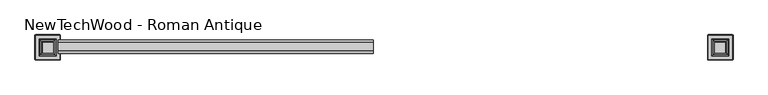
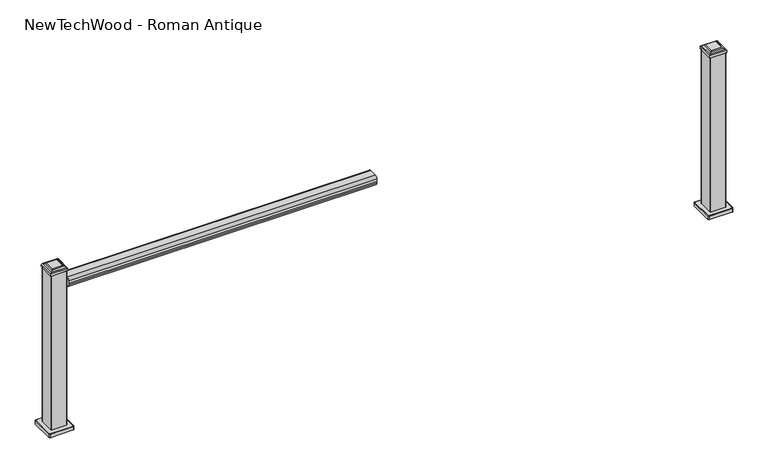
"""IFC4 building model written with IfcOpenShell, lengths in millimetres: railing geometry, NewTechWood - Roman Antique."""

import ifcopenshell
import ifcopenshell.guid

model = None  # the IFC model being written
_history = None  # IfcOwnerHistory: only IFC2X3 demands one
_inside = {}  # id of a spatial element -> (the spatial element, [elements in it])
_under = {}  # id of a project, library or spatial element -> (it, [spatial elements below it])
_declared = {}  # id of a project -> (the project, [libraries it declares])
_typed = {}  # id of a type object -> (the type object, [elements of that type])
_made_of = {}  # id of a material, layer set ... -> (it, [elements and type objects made of it])


def new_model(schema):
    """Start an empty IFC model of exactly this schema.

    Asked for "IFC4X3", IfcOpenShell would pick the latest addendum, in which some entities
    have other attributes; the version numbers below select the first issue.
    IFC2X3 requires an IfcOwnerHistory on every rooted entity: one is made here for all.
    """
    global model, _history
    if schema == "IFC4X3":
        model = ifcopenshell.file(schema_version=(4, 3, 0, 0))
    else:
        model = ifcopenshell.file(schema=schema)
    _inside.clear()
    _under.clear()
    _declared.clear()
    _typed.clear()
    _made_of.clear()
    _history = None
    if model.schema == "IFC2X3":
        org = make("IfcOrganization", Name="unknown")
        user = make(
            "IfcPersonAndOrganization",
            ThePerson=make("IfcPerson", FamilyName="unknown"),
            TheOrganization=org,
        )
        app = make(
            "IfcApplication",
            ApplicationDeveloper=org,
            Version="unknown",
            ApplicationFullName="unknown",
            ApplicationIdentifier="unknown",
        )
        _history = make(
            "IfcOwnerHistory",
            OwningUser=user,
            OwningApplication=app,
            ChangeAction="ADDED",
            CreationDate=0,
        )
    return model


def make(cls, **values):
    """One entity of the class cls with the attributes given. An attribute that is None is left unset."""
    return model.create_entity(
        cls, **{name: value for name, value in values.items() if value is not None}
    )


def rooted(cls, **values):
    """An entity with a GlobalId (a new one), such as an element, a storey or a relation."""
    return make(cls, GlobalId=ifcopenshell.guid.new(), OwnerHistory=_history, **values)


def si_unit(unit_type, name, prefix=None):
    """IfcSIUnit, for example si_unit("LENGTHUNIT", "METRE", prefix="MILLI")."""
    return make("IfcSIUnit", UnitType=unit_type, Prefix=prefix, Name=name)


def assignment(units):
    """IfcUnitAssignment: the units of a project."""
    return None if units is None else make("IfcUnitAssignment", Units=units)


def point(xyz):
    """IfcCartesianPoint."""
    return None if xyz is None else make("IfcCartesianPoint", Coordinates=xyz)


def direction(xyz):
    """IfcDirection."""
    return None if xyz is None else make("IfcDirection", DirectionRatios=xyz)


def frame(location, z_axis=None, x_axis=None):
    """IfcAxis2Placement3D, a coordinate frame: its origin and axes. An axis left out is left unset."""
    return make(
        "IfcAxis2Placement3D",
        Location=point(location),
        Axis=direction(z_axis),
        RefDirection=direction(x_axis),
    )


def frame_2d(location, x_axis=None):
    """IfcAxis2Placement2D, a coordinate frame in the plane: its origin and x axis."""
    return make(
        "IfcAxis2Placement2D", Location=point(location), RefDirection=direction(x_axis)
    )


def origin():
    """The frame at (0, 0, 0) with its axes left unset."""
    return frame((0.0, 0.0, 0.0))


def place(relative_to, where):
    """IfcLocalPlacement: puts the frame where relative to a parent placement (None: the world)."""
    return make(
        "IfcLocalPlacement", PlacementRelTo=relative_to, RelativePlacement=where
    )


def context(
    kind, dimensions, precision=None, world=None, true_north=None, identifier=None
):
    """IfcGeometricRepresentationContext, for example the 3D "Model" context."""
    return make(
        "IfcGeometricRepresentationContext",
        ContextIdentifier=identifier,
        ContextType=kind,
        CoordinateSpaceDimension=dimensions,
        Precision=precision,
        WorldCoordinateSystem=world,
        TrueNorth=true_north,
    )


def project(units=None, contexts=None):
    """IfcProject with its units and contexts."""
    return rooted(
        "IfcProject",
        Name="project",
        RepresentationContexts=contexts,
        UnitsInContext=assignment(units),
    )


def spatial(cls, under=None, at=None, **own):
    """A site, building, storey or space (cls), placed at a placement, below another one or the project."""
    s = rooted(cls, ObjectPlacement=at, **own)
    if under is not None:
        _under.setdefault(under.id(), (under, []))[1].append(s)
    return s


def polyline(points):
    """IfcPolyline through the points."""
    return make("IfcPolyline", Points=[point(p) for p in points])


def circle_curve(where, radius):
    """IfcCircle in the frame where."""
    return make("IfcCircle", Position=where, Radius=radius)


def ellipse_curve(where, semi_axis1, semi_axis2):
    """IfcEllipse in the frame where."""
    return make(
        "IfcEllipse", Position=where, SemiAxis1=semi_axis1, SemiAxis2=semi_axis2
    )


def trimmed(basis, trim1, trim2, sense, master):
    """IfcTrimmedCurve: the piece of a basis curve between two trims."""
    return make(
        "IfcTrimmedCurve",
        BasisCurve=basis,
        Trim1=trim1,
        Trim2=trim2,
        SenseAgreement=sense,
        MasterRepresentation=master,
    )


def segment(curve, same_sense, transition):
    """IfcCompositeCurveSegment."""
    return make(
        "IfcCompositeCurveSegment",
        Transition=transition,
        SameSense=same_sense,
        ParentCurve=curve,
    )


def composite_curve(segments, self_intersect=None):
    """IfcCompositeCurve: segments joined end to end."""
    return make("IfcCompositeCurve", Segments=segments, SelfIntersect=self_intersect)


def outline(outer, holes=None, kind="AREA"):
    """IfcArbitraryClosedProfileDef: a profile drawn as a closed curve; with holes, ...WithVoids."""
    if holes is None:
        return make("IfcArbitraryClosedProfileDef", ProfileType=kind, OuterCurve=outer)
    return make(
        "IfcArbitraryProfileDefWithVoids",
        ProfileType=kind,
        OuterCurve=outer,
        InnerCurves=holes,
    )


def extrude(swept, where, along, depth):
    """IfcExtrudedAreaSolid: the profile swept, set in the frame where, extruded along a direction by depth."""
    return make(
        "IfcExtrudedAreaSolid",
        SweptArea=swept,
        Position=where,
        ExtrudedDirection=direction(along),
        Depth=depth,
    )


def faces_of(points, faces, orient=None, outer=None):
    """IfcFace entities. A face is a list of loops; a loop is a list of indices into points, from 0.

    orient and outer hold one flag for each loop. By default every Orientation is true, the
    first loop of a face is its IfcFaceOuterBound and the others are IfcFaceBound.
    """
    made = []
    for i, loops in enumerate(faces):
        bounds = []
        for j, loop in enumerate(loops):
            is_outer = j == 0 if outer is None else outer[i][j]
            bounds.append(
                make(
                    "IfcFaceOuterBound" if is_outer else "IfcFaceBound",
                    Bound=make("IfcPolyLoop", Polygon=[points[k] for k in loop]),
                    Orientation=True if orient is None else orient[i][j],
                )
            )
        made.append(make("IfcFace", Bounds=bounds))
    return made


def faceted_brep(points, faces, orient=None, outer=None, voids=None):
    """IfcFacetedBrep: a solid bounded by flat faces; with voids (closed shells), ...WithVoids."""
    shared = [point(p) for p in points]
    hull = make("IfcClosedShell", CfsFaces=faces_of(shared, faces, orient, outer))
    if voids is None:
        return make("IfcFacetedBrep", Outer=hull)
    return make(
        "IfcFacetedBrepWithVoids",
        Outer=hull,
        Voids=[
            make(cls, CfsFaces=faces_of(shared, fs, o, b)) for cls, fs, o, b in voids
        ],
    )


def shape(context_of_items, identifier, shape_type, items):
    """IfcShapeRepresentation: the items that make up one representation, for example the "Body"."""
    return make(
        "IfcShapeRepresentation",
        ContextOfItems=context_of_items,
        RepresentationIdentifier=identifier,
        RepresentationType=shape_type,
        Items=items,
    )


def source(mapping_origin, context_of_items, identifier, shape_type, items):
    """IfcRepresentationMap: a shape defined once, which mapped items show again and again."""
    return make(
        "IfcRepresentationMap",
        MappingOrigin=mapping_origin,
        MappedRepresentation=shape(context_of_items, identifier, shape_type, items),
    )


def transform(
    local_origin,
    x_axis=None,
    y_axis=None,
    z_axis=None,
    scale=None,
    scale2=None,
    scale3=None,
    uniform=True,
):
    """IfcCartesianTransformationOperator3D, or its non-uniform kind. x_axis, y_axis, z_axis: its Axis1, 2, 3."""
    if uniform:
        return make(
            "IfcCartesianTransformationOperator3D",
            Axis1=direction(x_axis),
            Axis2=direction(y_axis),
            LocalOrigin=point(local_origin),
            Scale=scale,
            Axis3=direction(z_axis),
        )
    return make(
        "IfcCartesianTransformationOperator3DnonUniform",
        Axis1=direction(x_axis),
        Axis2=direction(y_axis),
        LocalOrigin=point(local_origin),
        Scale=scale,
        Axis3=direction(z_axis),
        Scale2=scale2,
        Scale3=scale3,
    )


def mapped(mapping_source, mapping_target):
    """IfcMappedItem: shows the shape of a source again, moved by a transform."""
    return make(
        "IfcMappedItem", MappingSource=mapping_source, MappingTarget=mapping_target
    )


def made_of(thing, what):
    """Note that an element or type object is made of a material, layer set ...; save() writes the relation."""
    if what is not None:
        _made_of.setdefault(what.id(), (what, []))[1].append(thing)
    return thing


def element(
    cls,
    number,
    at=None,
    inside=None,
    cuts=None,
    type_object=None,
    material=None,
    context=None,
    identifier="Body",
    shape_type=None,
    held_by="IfcProductDefinitionShape",
    body=None,
    shapes=None,
    **own,
):
    """One element of the class cls, such as IfcWall. Its Tag is "e" and its number.

    at: its placement. inside: the storey or other place that contains it. cuts: it is an
    opening in that element (IfcRelVoidsElement). A single representation is given by context,
    identifier, shape_type and body (its items); several are given by shapes. held_by: the class
    of the entity that holds the representations. save() writes the other relations.
    """
    e = rooted(cls, Tag="e%d" % number, ObjectPlacement=at, **own)
    if body is not None:
        shapes = [shape(context, identifier, shape_type, body)]
    if shapes is not None:
        e.Representation = make(held_by, Representations=shapes)
    if inside is not None:
        _inside.setdefault(inside.id(), (inside, []))[1].append(e)
    if cuts is not None:
        rooted(
            "IfcRelVoidsElement", RelatingBuildingElement=cuts, RelatedOpeningElement=e
        )
    if type_object is not None:
        _typed.setdefault(type_object.id(), (type_object, []))[1].append(e)
    return made_of(e, material)


def aggregate(whole, parts):
    """IfcRelAggregates: a whole, such as a stair, and the parts it consists of."""
    return rooted("IfcRelAggregates", RelatingObject=whole, RelatedObjects=parts)


def save(model, path):
    """Write the relations noted so far, then the file.

    IfcRelAggregates (storeys below a building ...), IfcRelContainedInSpatialStructure (elements
    in a storey), IfcRelDefinesByType, IfcRelAssociatesMaterial and IfcRelDeclares: one each for
    every whole, place, type object, material and project.
    """
    for whole, parts in _under.values():
        aggregate(whole, parts)
    for where, things in _inside.values():
        rooted(
            "IfcRelContainedInSpatialStructure",
            RelatedElements=things,
            RelatingStructure=where,
        )
    for kind, things in _typed.values():
        rooted("IfcRelDefinesByType", RelatedObjects=things, RelatingType=kind)
    for what, things in _made_of.values():
        rooted("IfcRelAssociatesMaterial", RelatedObjects=things, RelatingMaterial=what)
    for by, libraries in _declared.values():
        rooted("IfcRelDeclares", RelatingContext=by, RelatedDefinitions=libraries)
    model.write(path)


def plane_surface(at):
    """IfcPlane: the flat surface through the origin of the frame at, square to its z axis."""
    return make("IfcPlane", Position=at)


def cylinder_surface(at, radius):
    """IfcCylindricalSurface: all points at the distance radius from the z axis of the frame at."""
    return make("IfcCylindricalSurface", Position=at, Radius=radius)


def revolved_surface(curve, axis_point, axis_direction):
    """IfcSurfaceOfRevolution: the curve turned about the line through axis_point along axis_direction."""
    return make(
        "IfcSurfaceOfRevolution",
        SweptCurve=make("IfcArbitraryOpenProfileDef", ProfileType="CURVE", Curve=curve),
        AxisPosition=make("IfcAxis1Placement", Location=point(axis_point), Axis=direction(axis_direction)),
    )


def advanced_brep(points, edges, surfaces, faces):
    """IfcAdvancedBrep: a solid bounded by faces that lie on surfaces and meet in shared edges.

    An edge is (start, end): straight between two places in points (the first is 0);
    or (start, end, curve); or (start, end, curve, False) where it runs against its curve.
    A face is (place in surfaces, loops), or (place, loops, False) where it looks against
    its surface's normal. A loop lists edges by number (the first is 1), with a minus sign
    where the edge is run from its end to its start. The first loop is the outer one.
    """
    corners = [point(p) for p in points]
    vertices = [make("IfcVertexPoint", VertexGeometry=c) for c in corners]
    made = []
    for start, end, *more in edges:
        made.append(
            make(
                "IfcEdgeCurve",
                EdgeStart=vertices[start],
                EdgeEnd=vertices[end],
                EdgeGeometry=more[0] if more else make("IfcPolyline", Points=[corners[start], corners[end]]),
                SameSense=more[1] if len(more) > 1 else True,
            )
        )
    hull = []
    for where, loops, *sense in faces:
        bounds = []
        for j, loop in enumerate(loops):
            ring = [make("IfcOrientedEdge", EdgeElement=made[abs(k) - 1], Orientation=k > 0) for k in loop]
            bounds.append(
                make(
                    "IfcFaceOuterBound" if j == 0 else "IfcFaceBound",
                    Bound=make("IfcEdgeLoop", EdgeList=ring),
                    Orientation=True,
                )
            )
        hull.append(make("IfcAdvancedFace", Bounds=bounds, FaceSurface=surfaces[where], SameSense=sense[0] if sense else True))
    return make("IfcAdvancedBrep", Outer=make("IfcClosedShell", CfsFaces=hull))


def newtechwood_roman_antique_82e63d9d(model_context):
    return source(origin(), model_context, "Body", "SolidModel", [
        extrude(outline(composite_curve([segment(polyline([(11543.636591, 859.0161325), (11499.2718146, 859.0161325)]), True, "CONTINUOUS"), segment(trimmed(circle_curve(frame_2d((11499.2718146, 875.7552917)), 16.7391591), [point((11499.2718146, 859.0161325))], [point((11482.5326554, 875.7552917))], False, "CARTESIAN"), True, "CONTINUOUS"), segment(polyline([(11482.5326554, 875.7552917), (11482.5326554, 885.3278473)]), True, "CONTINUOUS"), segment(trimmed(circle_curve(frame_2d((11469.6196989, 891.6660673)), 14.3846265), [point((11482.5326554, 885.3278473))], [point((11482.0441367, 898.9152621))], True, "CARTESIAN"), True, "CONTINUOUS"), segment(trimmed(circle_curve(frame_2d((11497.612742, 898.9152621)), 15.5686053), [point((11482.0441367, 898.9152621))], [point((11497.612742, 914.4838675))], False, "CARTESIAN"), True, "CONTINUOUS"), segment(polyline([(11497.612742, 914.4838675), (11545.2956636, 914.4838675)]), True, "CONTINUOUS"), segment(trimmed(circle_curve(frame_2d((11545.2956636, 898.9152621)), 15.5686053), [point((11545.2956636, 914.4838675))], [point((11560.8642689, 898.9152621))], False, "CARTESIAN"), True, "CONTINUOUS"), segment(trimmed(circle_curve(frame_2d((11573.2887067, 891.6660673)), 14.3846265), [point((11560.8642689, 898.9152621))], [point((11560.3757501, 885.3278473))], True, "CARTESIAN"), True, "CONTINUOUS"), segment(polyline([(11560.3757501, 885.3278473), (11560.3757501, 875.7552917)]), True, "CONTINUOUS"), segment(trimmed(circle_curve(frame_2d((11543.636591, 875.7552917)), 16.7391591), [point((11560.3757501, 875.7552917))], [point((11543.636591, 859.0161325))], False, "CARTESIAN"), True, "CONTINUOUS")], self_intersect=False)), frame((10668.291138, 0.0, 0.0), z_axis=(1.0, 0.0, 0.0), x_axis=(0.0, 1.0, 0.0)), (0.0, 0.0, 1.0), 1799.0),
        advanced_brep(
        [(14520.3131693, 11447.5944784, 22.5), (14523.4727366, 11450.7540458, 22.5), (14523.4727366, 11585.4340458, 22.5), (14520.3131693, 11588.5936132, 22.5), (14385.6331693, 11588.5936132, 22.5), (14382.4736019, 11585.4340458, 22.5), (14382.4736019, 11450.7540458, 22.5), (14385.6331693, 11447.5944784, 22.5), (14380.4731693, 11585.4340458, 0.0), (14385.6331693, 11590.5940458, 0.0), (14520.3131693, 11590.5940458, 0.0), (14525.4731693, 11585.4340458, 0.0), (14525.4731693, 11450.7540458, 0.0), (14520.3131693, 11445.5940458, 0.0), (14385.6331693, 11445.5940458, 0.0), (14380.4731693, 11450.7540458, 0.0), (14380.4731693, 11450.7540458, 20.4995674), (14380.4731693, 11585.4340458, 20.4995674), (14385.6331693, 11445.5940458, 20.499569), (14520.3131693, 11445.5940458, 20.499569), (14525.4731693, 11450.7540458, 20.4995691), (14525.4731693, 11585.4340458, 20.4995674), (14520.3131693, 11590.5940458, 20.4995692), (14385.6331693, 11590.5940458, 20.4995674)],
        [
            (0, 1, circle_curve(frame((14520.3131693, 11450.7540458, 22.5), z_axis=(0.0, 0.0, 1.0), x_axis=(0.0, -1.0, 0.0)), 3.1595674)),
            (1, 2),
            (2, 3, circle_curve(frame((14520.3131693, 11585.4340458, 22.5), z_axis=(0.0, 0.0, 1.0), x_axis=(1.0, 0.0, 0.0)), 3.1595674)),
            (3, 4),
            (4, 5, circle_curve(frame((14385.6331693, 11585.4340458, 22.5), z_axis=(0.0, 0.0, 1.0), x_axis=(0.0, 1.0, 0.0)), 3.1595674)),
            (5, 6),
            (6, 7, circle_curve(frame((14385.6331693, 11450.7540458, 22.5), z_axis=(0.0, 0.0, 1.0), x_axis=(-1.0, 0.0, 0.0)), 3.1595674)),
            (7, 0),
            (8, 9, circle_curve(frame((14385.6331693, 11585.4340458, 0.0), z_axis=(0.0, 0.0, -1.0), x_axis=(0.0, 1.0, 0.0)), 5.16)),
            (9, 10),
            (10, 11, circle_curve(frame((14520.3131693, 11585.4340458, 0.0), z_axis=(0.0, 0.0, -1.0), x_axis=(0.0, 1.0, 0.0)), 5.16)),
            (11, 12),
            (12, 13, circle_curve(frame((14520.3131693, 11450.7540458, 0.0), z_axis=(0.0, 0.0, -1.0), x_axis=(0.0, 1.0, 0.0)), 5.16)),
            (13, 14),
            (14, 15, circle_curve(frame((14385.6331693, 11450.7540458, 0.0), z_axis=(0.0, 0.0, -1.0), x_axis=(0.0, 1.0, 0.0)), 5.16)),
            (15, 8),
            (15, 16),
            (16, 17),
            (17, 8),
            (14, 18),
            (18, 16, circle_curve(frame((14385.6331693, 11450.7540458, 20.4995674), z_axis=(0.0, 0.0, -1.0), x_axis=(0.0, 1.0, 0.0)), 5.16)),
            (13, 19),
            (19, 18),
            (12, 20),
            (20, 19, circle_curve(frame((14520.3131693, 11450.7540458, 20.4995674), z_axis=(0.0, 0.0, -1.0), x_axis=(0.0, 1.0, 0.0)), 5.16)),
            (11, 21),
            (21, 20),
            (10, 22),
            (22, 21, circle_curve(frame((14520.3131693, 11585.4340458, 20.4995674), z_axis=(0.0, 0.0, -1.0), x_axis=(0.0, 1.0, 0.0)), 5.16)),
            (9, 23),
            (23, 22),
            (17, 23, circle_curve(frame((14385.6331693, 11585.4340458, 20.4995674), z_axis=(0.0, 0.0, -1.0), x_axis=(0.0, 1.0, 0.0)), 5.16)),
            (20, 1, circle_curve(frame((14523.4727366, 11450.7540458, 20.4995674), z_axis=(0.0, -1.0, 0.0), x_axis=(-1.0, 0.0, 0.0)), 2.0004326)),
            (0, 19, circle_curve(frame((14520.3131693, 11447.5944784, 20.4995674), z_axis=(1.0, 0.0, 0.0), x_axis=(0.0, 1.0, 0.0)), 2.0004326)),
            (21, 2, circle_curve(frame((14523.4727366, 11585.4340458, 20.4995674), z_axis=(0.0, -1.0, 0.0), x_axis=(-1.0, 0.0, 0.0)), 2.0004326)),
            (22, 3, circle_curve(frame((14520.3131693, 11588.5936132, 20.4995674), z_axis=(1.0, 0.0, 0.0), x_axis=(0.0, -1.0, 0.0)), 2.0004326)),
            (23, 4, circle_curve(frame((14385.6331693, 11588.5936132, 20.4995674), z_axis=(1.0, 0.0, 0.0), x_axis=(0.0, -1.0, 0.0)), 2.0004326)),
            (17, 5, circle_curve(frame((14382.4736019, 11585.4340458, 20.4995674), z_axis=(0.0, 1.0, 0.0), x_axis=(1.0, 0.0, 0.0)), 2.0004326)),
            (16, 6, circle_curve(frame((14382.4736019, 11450.7540458, 20.4995674), z_axis=(0.0, 1.0, 0.0), x_axis=(1.0, 0.0, 0.0)), 2.0004326)),
            (18, 7, circle_curve(frame((14385.6331693, 11447.5944784, 20.4995674), z_axis=(-1.0, 0.0, 0.0), x_axis=(0.0, 1.0, 0.0)), 2.0004326)),
        ],
        [
            plane_surface(frame((14380.4731693, 11558.658052, 22.5), z_axis=(0.0, 0.0, 1.0), x_axis=(0.0, -1.0, 0.0))),
            plane_surface(frame((14380.4731693, 11558.658052, 0.0), z_axis=(0.0, 0.0, -1.0), x_axis=(0.0, 1.0, 0.0))),
            plane_surface(frame((14380.4731693, 11585.4340458, 22.5), z_axis=(-1.0, 0.0, 0.0), x_axis=(0.0, 0.0, -1.0))),
            cylinder_surface(frame((14385.6331693, 11450.7540458, 0.0), z_axis=(0.0, 0.0, 1.0), x_axis=(0.0, 1.0, 0.0)), 5.16),
            plane_surface(frame((14385.6331693, 11445.5940458, 22.5), z_axis=(0.0, -1.0, 0.0), x_axis=(0.0, 0.0, -1.0))),
            cylinder_surface(frame((14520.3131693, 11450.7540458, 0.0), z_axis=(0.0, 0.0, 1.0), x_axis=(0.0, 1.0, 0.0)), 5.16),
            plane_surface(frame((14525.4731693, 11450.7540458, 22.5), z_axis=(1.0, 0.0, 0.0), x_axis=(0.0, 0.0, -1.0))),
            cylinder_surface(frame((14520.3131693, 11585.4340458, 0.0), z_axis=(0.0, 0.0, 1.0), x_axis=(0.0, 1.0, 0.0)), 5.16),
            plane_surface(frame((14520.3131693, 11590.5940458, 22.5), z_axis=(0.0, 1.0, 0.0), x_axis=(0.0, 0.0, -1.0))),
            cylinder_surface(frame((14385.6331693, 11585.4340458, 0.0), z_axis=(0.0, 0.0, 1.0), x_axis=(0.0, 1.0, 0.0)), 5.16),
            revolved_surface(trimmed(ellipse_curve(frame((14520.3131693, 11447.5944784, 20.4995674), z_axis=(-1.0, 0.0, 0.0), x_axis=(0.0, 1.0, 0.0)), 2.0004326, 2.0004326), [point((14520.3131693, 11445.5940458, 20.4995674))], [point((14520.3131693, 11447.5944784, 22.5))], True, "CARTESIAN"), (14520.3131693, 11450.7540458, 22.5), (0.0, 0.0, 1.0)),
            cylinder_surface(frame((14523.4727366, 11450.7540458, 20.4995674), z_axis=(0.0, 1.0, 0.0), x_axis=(-1.0, 0.0, 0.0)), 2.0004326),
            revolved_surface(trimmed(ellipse_curve(frame((14523.4727366, 11585.4340458, 20.4995674), z_axis=(0.0, -1.0, 0.0), x_axis=(-1.0, 0.0, 0.0)), 2.0004326, 2.0004326), [point((14525.4731693, 11585.4340458, 20.4995674))], [point((14523.4727366, 11585.4340458, 22.5))], True, "CARTESIAN"), (14520.3131693, 11585.4340458, 22.5), (0.0, 0.0, 1.0)),
            cylinder_surface(frame((14520.3131693, 11588.5936132, 20.4995674), z_axis=(-1.0, 0.0, 0.0), x_axis=(0.0, -1.0, 0.0)), 2.0004326),
            revolved_surface(trimmed(ellipse_curve(frame((14385.6331693, 11588.5936132, 20.4995674), z_axis=(1.0, 0.0, 0.0), x_axis=(0.0, -1.0, 0.0)), 2.0004326, 2.0004326), [point((14385.6331693, 11590.5940458, 20.4995674))], [point((14385.6331693, 11588.5936132, 22.5))], True, "CARTESIAN"), (14385.6331693, 11585.4340458, 22.5), (0.0, 0.0, 1.0)),
            cylinder_surface(frame((14382.4736019, 11585.4340458, 20.4995674), z_axis=(0.0, -1.0, 0.0), x_axis=(1.0, 0.0, 0.0)), 2.0004326),
            revolved_surface(trimmed(ellipse_curve(frame((14382.4736019, 11450.7540458, 20.4995674), z_axis=(0.0, 1.0, 0.0), x_axis=(1.0, 0.0, 0.0)), 2.0004326, 2.0004326), [point((14380.4731693, 11450.7540458, 20.4995674))], [point((14382.4736019, 11450.7540458, 22.5))], True, "CARTESIAN"), (14385.6331693, 11450.7540458, 22.5), (0.0, 0.0, 1.0)),
            cylinder_surface(frame((14385.6331693, 11447.5944784, 20.4995674), z_axis=(1.0, 0.0, 0.0), x_axis=(0.0, 1.0, 0.0)), 2.0004326),
        ],
        [
            (0, [[1, 2, 3, 4, 5, 6, 7, 8]]),
            (1, [[9, 10, 11, 12, 13, 14, 15, 16]]),
            (2, [[-16, 17, 18, 19]]),
            (3, [[-15, 20, 21, -17]]),
            (4, [[-14, 22, 23, -20]]),
            (5, [[-13, 24, 25, -22]]),
            (6, [[-12, 26, 27, -24]]),
            (7, [[-11, 28, 29, -26]]),
            (8, [[-10, 30, 31, -28]]),
            (9, [[-9, -19, 32, -30]]),
            (10, [[33, -1, 34, -25]]),
            (11, [[-33, -27, 35, -2]]),
            (12, [[-35, -29, 36, -3]]),
            (13, [[-36, -31, 37, -4]]),
            (14, [[-37, -32, 38, -5]]),
            (15, [[-38, -18, 39, -6]]),
            (16, [[-39, -21, 40, -7]]),
            (17, [[-34, -8, -40, -23]]),
        ],
    ),
        faceted_brep([(14502.0231693, 11469.0440458, 990.769699), (14502.0231693, 11469.0440458, 976.139699), (14502.0231693, 11567.1440458, 976.139699), (14502.0231693, 11567.1440458, 990.769699), (14497.9904932, 11473.0767219, 996.0825536), (14497.9904932, 11563.1113697, 996.0825536), (14488.7653855, 11482.3018295, 1000.5958992), (14488.7653855, 11553.886262, 1000.5958992), (14484.2686181, 11486.7985969, 1004.4), (14484.2686181, 11549.3894946, 1004.4), (14403.9231693, 11567.1440458, 976.139699), (14403.9231693, 11567.1440458, 990.769699), (14407.9558454, 11563.1113697, 996.0825536), (14417.180953, 11553.886262, 1000.5958992), (14421.6777204, 11549.3894946, 1004.4), (14403.9231693, 11469.0440458, 976.139699), (14403.9231693, 11469.0440458, 990.769699), (14407.9558454, 11473.0767219, 996.0825536), (14417.180953, 11482.3018295, 1000.5958992), (14421.6777204, 11486.7985969, 1004.4)], [[[0, 1, 2, 3]], [[4, 0, 3, 5]], [[6, 4, 5, 7]], [[8, 6, 7, 9]], [[3, 2, 10, 11]], [[5, 3, 11, 12]], [[7, 5, 12, 13]], [[9, 7, 13, 14]], [[11, 10, 15, 16]], [[12, 11, 16, 17]], [[13, 12, 17, 18]], [[14, 13, 18, 19]], [[16, 15, 1, 0]], [[17, 16, 0, 4]], [[18, 17, 4, 6]], [[19, 18, 6, 8]], [[9, 14, 19, 8]], [[1, 15, 10, 2]]]),
        extrude(outline(composite_curve([segment(trimmed(circle_curve(frame_2d((14409.3831693, 11474.5040458)), 3.61), [point((14409.3831693, 11470.8940458))], [point((14405.7731693, 11474.5040458))], False, "CARTESIAN"), True, "CONTINUOUS"), segment(polyline([(14405.7731693, 11474.5040458), (14405.7731693, 11561.6840458)]), True, "CONTINUOUS"), segment(trimmed(circle_curve(frame_2d((14409.3831693, 11561.6840458)), 3.61), [point((14405.7731693, 11561.6840458))], [point((14409.3831693, 11565.2940458))], False, "CARTESIAN"), True, "CONTINUOUS"), segment(polyline([(14409.3831693, 11565.2940458), (14496.5631693, 11565.2940458)]), True, "CONTINUOUS"), segment(trimmed(circle_curve(frame_2d((14496.5631693, 11561.6840458)), 3.61), [point((14496.5631693, 11565.2940458))], [point((14500.1731693, 11561.6840458))], False, "CARTESIAN"), True, "CONTINUOUS"), segment(polyline([(14500.1731693, 11561.6840458), (14500.1731693, 11474.5040458)]), True, "CONTINUOUS"), segment(trimmed(circle_curve(frame_2d((14496.5631693, 11474.5040458)), 3.61), [point((14500.1731693, 11474.5040458))], [point((14496.5631693, 11470.8940458))], False, "CARTESIAN"), True, "CONTINUOUS"), segment(polyline([(14496.5631693, 11470.8940458), (14409.3831693, 11470.8940458)]), True, "CONTINUOUS")], self_intersect=False)), frame((0.0, 0.0, 22.5), z_axis=(0.0, 0.0, 1.0), x_axis=(1.0, 0.0, 0.0)), (0.0, 0.0, 1.0), 953.639699),
        advanced_brep(
        [(10673.4037943, 11447.5944784, 22.5), (10676.5633616, 11450.7540458, 22.5), (10676.5633616, 11585.4340458, 22.5), (10673.4037943, 11588.5936132, 22.5), (10538.7237943, 11588.5936132, 22.5), (10535.5642269, 11585.4340458, 22.5), (10535.5642269, 11450.7540458, 22.5), (10538.7237943, 11447.5944784, 22.5), (10533.5637943, 11585.4340458, 0.0), (10538.7237943, 11590.5940458, 0.0), (10673.4037943, 11590.5940458, 0.0), (10678.5637943, 11585.4340458, 0.0), (10678.5637943, 11450.7540458, 0.0), (10673.4037943, 11445.5940458, 0.0), (10538.7237943, 11445.5940458, 0.0), (10533.5637943, 11450.7540458, 0.0), (10533.5637943, 11450.7540458, 20.4995674), (10533.5637943, 11585.4340458, 20.4995674), (10538.7237943, 11445.5940458, 20.499569), (10673.4037943, 11445.5940458, 20.499569), (10678.5637943, 11450.7540458, 20.4995691), (10678.5637943, 11585.4340458, 20.4995674), (10673.4037943, 11590.5940458, 20.4995692), (10538.7237943, 11590.5940458, 20.4995674)],
        [
            (0, 1, circle_curve(frame((10673.4037943, 11450.7540458, 22.5), z_axis=(0.0, 0.0, 1.0), x_axis=(0.0, -1.0, 0.0)), 3.1595674)),
            (1, 2),
            (2, 3, circle_curve(frame((10673.4037943, 11585.4340458, 22.5), z_axis=(0.0, 0.0, 1.0), x_axis=(1.0, 0.0, 0.0)), 3.1595674)),
            (3, 4),
            (4, 5, circle_curve(frame((10538.7237943, 11585.4340458, 22.5), z_axis=(0.0, 0.0, 1.0), x_axis=(0.0, 1.0, 0.0)), 3.1595674)),
            (5, 6),
            (6, 7, circle_curve(frame((10538.7237943, 11450.7540458, 22.5), z_axis=(0.0, 0.0, 1.0), x_axis=(-1.0, 0.0, 0.0)), 3.1595674)),
            (7, 0),
            (8, 9, circle_curve(frame((10538.7237943, 11585.4340458, 0.0), z_axis=(0.0, 0.0, -1.0), x_axis=(0.0, 1.0, 0.0)), 5.16)),
            (9, 10),
            (10, 11, circle_curve(frame((10673.4037943, 11585.4340458, 0.0), z_axis=(0.0, 0.0, -1.0), x_axis=(0.0, 1.0, 0.0)), 5.16)),
            (11, 12),
            (12, 13, circle_curve(frame((10673.4037943, 11450.7540458, 0.0), z_axis=(0.0, 0.0, -1.0), x_axis=(0.0, 1.0, 0.0)), 5.16)),
            (13, 14),
            (14, 15, circle_curve(frame((10538.7237943, 11450.7540458, 0.0), z_axis=(0.0, 0.0, -1.0), x_axis=(0.0, 1.0, 0.0)), 5.16)),
            (15, 8),
            (15, 16),
            (16, 17),
            (17, 8),
            (14, 18),
            (18, 16, circle_curve(frame((10538.7237943, 11450.7540458, 20.4995674), z_axis=(0.0, 0.0, -1.0), x_axis=(0.0, 1.0, 0.0)), 5.16)),
            (13, 19),
            (19, 18),
            (12, 20),
            (20, 19, circle_curve(frame((10673.4037943, 11450.7540458, 20.4995674), z_axis=(0.0, 0.0, -1.0), x_axis=(0.0, 1.0, 0.0)), 5.16)),
            (11, 21),
            (21, 20),
            (10, 22),
            (22, 21, circle_curve(frame((10673.4037943, 11585.4340458, 20.4995674), z_axis=(0.0, 0.0, -1.0), x_axis=(0.0, 1.0, 0.0)), 5.16)),
            (9, 23),
            (23, 22),
            (17, 23, circle_curve(frame((10538.7237943, 11585.4340458, 20.4995674), z_axis=(0.0, 0.0, -1.0), x_axis=(0.0, 1.0, 0.0)), 5.16)),
            (20, 1, circle_curve(frame((10676.5633616, 11450.7540458, 20.4995674), z_axis=(0.0, -1.0, 0.0), x_axis=(-1.0, 0.0, 0.0)), 2.0004326)),
            (0, 19, circle_curve(frame((10673.4037943, 11447.5944784, 20.4995674), z_axis=(1.0, 0.0, 0.0), x_axis=(0.0, 1.0, 0.0)), 2.0004326)),
            (21, 2, circle_curve(frame((10676.5633616, 11585.4340458, 20.4995674), z_axis=(0.0, -1.0, 0.0), x_axis=(-1.0, 0.0, 0.0)), 2.0004326)),
            (22, 3, circle_curve(frame((10673.4037943, 11588.5936132, 20.4995674), z_axis=(1.0, 0.0, 0.0), x_axis=(0.0, -1.0, 0.0)), 2.0004326)),
            (23, 4, circle_curve(frame((10538.7237943, 11588.5936132, 20.4995674), z_axis=(1.0, 0.0, 0.0), x_axis=(0.0, -1.0, 0.0)), 2.0004326)),
            (17, 5, circle_curve(frame((10535.5642269, 11585.4340458, 20.4995674), z_axis=(0.0, 1.0, 0.0), x_axis=(1.0, 0.0, 0.0)), 2.0004326)),
            (16, 6, circle_curve(frame((10535.5642269, 11450.7540458, 20.4995674), z_axis=(0.0, 1.0, 0.0), x_axis=(1.0, 0.0, 0.0)), 2.0004326)),
            (18, 7, circle_curve(frame((10538.7237943, 11447.5944784, 20.4995674), z_axis=(-1.0, 0.0, 0.0), x_axis=(0.0, 1.0, 0.0)), 2.0004326)),
        ],
        [
            plane_surface(frame((10533.5637943, 11558.658052, 22.5), z_axis=(0.0, 0.0, 1.0), x_axis=(0.0, -1.0, 0.0))),
            plane_surface(frame((10533.5637943, 11558.658052, 0.0), z_axis=(0.0, 0.0, -1.0), x_axis=(0.0, 1.0, 0.0))),
            plane_surface(frame((10533.5637943, 11585.4340458, 22.5), z_axis=(-1.0, 0.0, 0.0), x_axis=(0.0, 0.0, -1.0))),
            cylinder_surface(frame((10538.7237943, 11450.7540458, 0.0), z_axis=(0.0, 0.0, 1.0), x_axis=(0.0, 1.0, 0.0)), 5.16),
            plane_surface(frame((10538.7237943, 11445.5940458, 22.5), z_axis=(0.0, -1.0, 0.0), x_axis=(0.0, 0.0, -1.0))),
            cylinder_surface(frame((10673.4037943, 11450.7540458, 0.0), z_axis=(0.0, 0.0, 1.0), x_axis=(0.0, 1.0, 0.0)), 5.16),
            plane_surface(frame((10678.5637943, 11450.7540458, 22.5), z_axis=(1.0, 0.0, 0.0), x_axis=(0.0, 0.0, -1.0))),
            cylinder_surface(frame((10673.4037943, 11585.4340458, 0.0), z_axis=(0.0, 0.0, 1.0), x_axis=(0.0, 1.0, 0.0)), 5.16),
            plane_surface(frame((10673.4037943, 11590.5940458, 22.5), z_axis=(0.0, 1.0, 0.0), x_axis=(0.0, 0.0, -1.0))),
            cylinder_surface(frame((10538.7237943, 11585.4340458, 0.0), z_axis=(0.0, 0.0, 1.0), x_axis=(0.0, 1.0, 0.0)), 5.16),
            revolved_surface(trimmed(ellipse_curve(frame((10673.4037943, 11447.5944784, 20.4995674), z_axis=(-1.0, 0.0, 0.0), x_axis=(0.0, 1.0, 0.0)), 2.0004326, 2.0004326), [point((10673.4037943, 11445.5940458, 20.4995674))], [point((10673.4037943, 11447.5944784, 22.5))], True, "CARTESIAN"), (10673.4037943, 11450.7540458, 22.5), (0.0, 0.0, 1.0)),
            cylinder_surface(frame((10676.5633616, 11450.7540458, 20.4995674), z_axis=(0.0, 1.0, 0.0), x_axis=(-1.0, 0.0, 0.0)), 2.0004326),
            revolved_surface(trimmed(ellipse_curve(frame((10676.5633616, 11585.4340458, 20.4995674), z_axis=(0.0, -1.0, 0.0), x_axis=(-1.0, 0.0, 0.0)), 2.0004326, 2.0004326), [point((10678.5637943, 11585.4340458, 20.4995674))], [point((10676.5633616, 11585.4340458, 22.5))], True, "CARTESIAN"), (10673.4037943, 11585.4340458, 22.5), (0.0, 0.0, 1.0)),
            cylinder_surface(frame((10673.4037943, 11588.5936132, 20.4995674), z_axis=(-1.0, 0.0, 0.0), x_axis=(0.0, -1.0, 0.0)), 2.0004326),
            revolved_surface(trimmed(ellipse_curve(frame((10538.7237943, 11588.5936132, 20.4995674), z_axis=(1.0, 0.0, 0.0), x_axis=(0.0, -1.0, 0.0)), 2.0004326, 2.0004326), [point((10538.7237943, 11590.5940458, 20.4995674))], [point((10538.7237943, 11588.5936132, 22.5))], True, "CARTESIAN"), (10538.7237943, 11585.4340458, 22.5), (0.0, 0.0, 1.0)),
            cylinder_surface(frame((10535.5642269, 11585.4340458, 20.4995674), z_axis=(0.0, -1.0, 0.0), x_axis=(1.0, 0.0, 0.0)), 2.0004326),
            revolved_surface(trimmed(ellipse_curve(frame((10535.5642269, 11450.7540458, 20.4995674), z_axis=(0.0, 1.0, 0.0), x_axis=(1.0, 0.0, 0.0)), 2.0004326, 2.0004326), [point((10533.5637943, 11450.7540458, 20.4995674))], [point((10535.5642269, 11450.7540458, 22.5))], True, "CARTESIAN"), (10538.7237943, 11450.7540458, 22.5), (0.0, 0.0, 1.0)),
            cylinder_surface(frame((10538.7237943, 11447.5944784, 20.4995674), z_axis=(1.0, 0.0, 0.0), x_axis=(0.0, 1.0, 0.0)), 2.0004326),
        ],
        [
            (0, [[1, 2, 3, 4, 5, 6, 7, 8]]),
            (1, [[9, 10, 11, 12, 13, 14, 15, 16]]),
            (2, [[-16, 17, 18, 19]]),
            (3, [[-15, 20, 21, -17]]),
            (4, [[-14, 22, 23, -20]]),
            (5, [[-13, 24, 25, -22]]),
            (6, [[-12, 26, 27, -24]]),
            (7, [[-11, 28, 29, -26]]),
            (8, [[-10, 30, 31, -28]]),
            (9, [[-9, -19, 32, -30]]),
            (10, [[33, -1, 34, -25]]),
            (11, [[-33, -27, 35, -2]]),
            (12, [[-35, -29, 36, -3]]),
            (13, [[-36, -31, 37, -4]]),
            (14, [[-37, -32, 38, -5]]),
            (15, [[-38, -18, 39, -6]]),
            (16, [[-39, -21, 40, -7]]),
            (17, [[-34, -8, -40, -23]]),
        ],
    ),
        faceted_brep([(10655.1137943, 11469.0440458, 990.769699), (10655.1137943, 11469.0440458, 976.139699), (10655.1137943, 11567.1440458, 976.139699), (10655.1137943, 11567.1440458, 990.769699), (10651.0811182, 11473.0767219, 996.0825536), (10651.0811182, 11563.1113697, 996.0825536), (10641.8560105, 11482.3018295, 1000.5958992), (10641.8560105, 11553.886262, 1000.5958992), (10637.3592431, 11486.7985969, 1004.4), (10637.3592431, 11549.3894946, 1004.4), (10557.0137943, 11567.1440458, 976.139699), (10557.0137943, 11567.1440458, 990.769699), (10561.0464704, 11563.1113697, 996.0825536), (10570.271578, 11553.886262, 1000.5958992), (10574.7683454, 11549.3894946, 1004.4), (10557.0137943, 11469.0440458, 976.139699), (10557.0137943, 11469.0440458, 990.769699), (10561.0464704, 11473.0767219, 996.0825536), (10570.271578, 11482.3018295, 1000.5958992), (10574.7683454, 11486.7985969, 1004.4)], [[[0, 1, 2, 3]], [[4, 0, 3, 5]], [[6, 4, 5, 7]], [[8, 6, 7, 9]], [[3, 2, 10, 11]], [[5, 3, 11, 12]], [[7, 5, 12, 13]], [[9, 7, 13, 14]], [[11, 10, 15, 16]], [[12, 11, 16, 17]], [[13, 12, 17, 18]], [[14, 13, 18, 19]], [[16, 15, 1, 0]], [[17, 16, 0, 4]], [[18, 17, 4, 6]], [[19, 18, 6, 8]], [[9, 14, 19, 8]], [[1, 15, 10, 2]]]),
        extrude(outline(composite_curve([segment(trimmed(circle_curve(frame_2d((10562.4737943, 11474.5040458)), 3.61), [point((10562.4737943, 11470.8940458))], [point((10558.8637943, 11474.5040458))], False, "CARTESIAN"), True, "CONTINUOUS"), segment(polyline([(10558.8637943, 11474.5040458), (10558.8637943, 11561.6840458)]), True, "CONTINUOUS"), segment(trimmed(circle_curve(frame_2d((10562.4737943, 11561.6840458)), 3.61), [point((10558.8637943, 11561.6840458))], [point((10562.4737943, 11565.2940458))], False, "CARTESIAN"), True, "CONTINUOUS"), segment(polyline([(10562.4737943, 11565.2940458), (10649.6537943, 11565.2940458)]), True, "CONTINUOUS"), segment(trimmed(circle_curve(frame_2d((10649.6537943, 11561.6840458)), 3.61), [point((10649.6537943, 11565.2940458))], [point((10653.2637943, 11561.6840458))], False, "CARTESIAN"), True, "CONTINUOUS"), segment(polyline([(10653.2637943, 11561.6840458), (10653.2637943, 11474.5040458)]), True, "CONTINUOUS"), segment(trimmed(circle_curve(frame_2d((10649.6537943, 11474.5040458)), 3.61), [point((10653.2637943, 11474.5040458))], [point((10649.6537943, 11470.8940458))], False, "CARTESIAN"), True, "CONTINUOUS"), segment(polyline([(10649.6537943, 11470.8940458), (10562.4737943, 11470.8940458)]), True, "CONTINUOUS")], self_intersect=False)), frame((0.0, 0.0, 22.5), z_axis=(0.0, 0.0, 1.0), x_axis=(1.0, 0.0, 0.0)), (0.0, 0.0, 1.0), 953.639699),
    ])


if __name__ == "__main__":
    model = new_model("IFC4")
    model_context = context("Model", 3, world=origin())
    ifc_project = project(units=[si_unit("LENGTHUNIT", "METRE", prefix="MILLI")], contexts=[model_context])
    site = spatial("IfcSite", under=ifc_project)
    building = spatial("IfcBuilding", under=site)
    placement = place(None, origin())
    newtechwood_roman_antique_shape = newtechwood_roman_antique_82e63d9d(model_context)
    element("IfcRailing", 1, ObjectType="NewTechWood - Roman Antique", at=placement, inside=building, context=model_context, shape_type="MappedRepresentation", body=[
        mapped(newtechwood_roman_antique_shape, transform((0.0, 0.0, 0.0), x_axis=(1.0, 0.0, 0.0), y_axis=(0.0, 1.0, 0.0), z_axis=(0.0, 0.0, 1.0))),
    ])
    save(model, "model.ifc")
